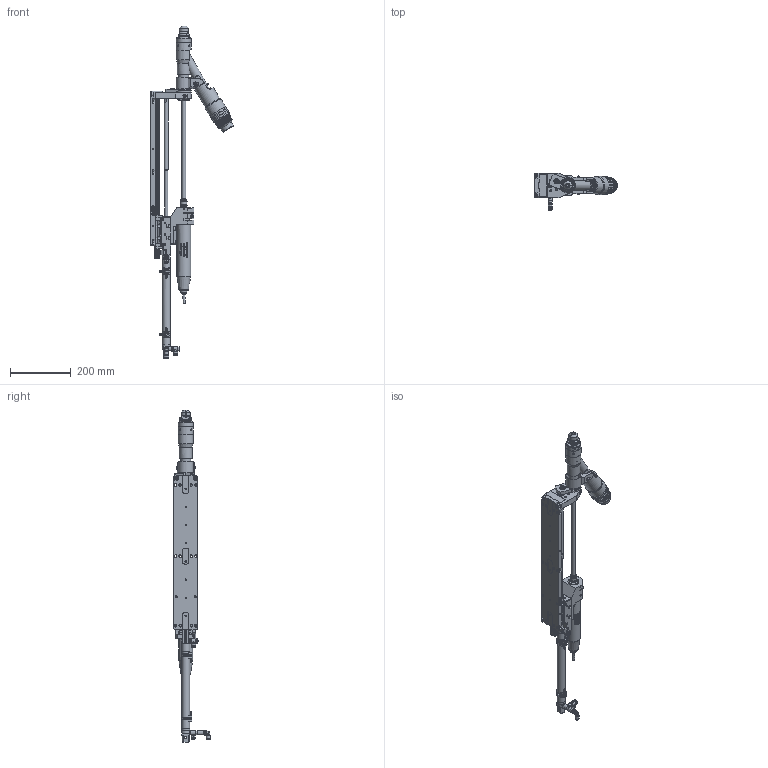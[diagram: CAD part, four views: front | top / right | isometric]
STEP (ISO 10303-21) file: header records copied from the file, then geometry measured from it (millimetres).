
FILE_DESCRIPTION(/* description */ ('© Copyright 2019 – Urheberrechtshinweis Diese CAD-Daten sind urheberrechtlich geschützt. Das Urheberrecht liegt, soweit nicht ausdrücklich anders gekennzeichnet, bei Stöger Automation GmbH. Bitte fragen Sie uns, falls Sie die CAD-Daten vervielfältigen oder','CAx-IF Rec.Pracs.---Representation and Presentation of Product Manufacturing Information (PMI)---4.0---2014-10-13'),/* implementation_level */ '2;1');
FILE_NAME(/* name */ 'N:\09_Entwicklung\09_01_Entwicklungen\09_01_01_Entwicklungsprojekte\VER0211_SEL100_Überarbeitung\Marketing\Step-Modelle\3D_Step_file_automatic_screwdriver_for_screws_SRL101.stp',/* time_stamp */ '2019-03-12T10:29:00+01:00',/* author */ ('Stöger Automation GmbH'),/* organization */ ('Stöger Automation GmbH'),/* preprocessor_version */ 'ST-DEVELOPER v17',/* originating_system */ 'Autodesk Inventor 2018',/* authorisation */ '');
FILE_SCHEMA (('AP242_MANAGED_MODEL_BASED_3D_ENGINEERING_MIM_LF { 1 0 10303 442 1 1 4 }'));
Products named in the file (1): MKT-SRL10101.ipt
Bounding box: 274.16 x 121.4 x 1096.8 mm (x, y, z)
Volume: 2209193.7 mm3; surface area: 801338.5 mm2
Topology: 111 solids, 112 shells, 4494 faces, 12303 edges, 8246 vertices
Faces by surface type: plane 2242, cylinder 1173, bspline 594, cone 375, torus 100, sphere 10
Full cylindrical faces by diameter (mm): 1 x2, 2.5 x2, 3 x6, 3.1 x5, 3.242 x4, 3.8 x4, 4 x10, 4.1 x2, 4.134 x15, 4.2 x3, 4.4 x2, 4.9 x2, 4.917 x16, 5 x11, 6 x32, 6.2 x10, 6.4 x4, 6.5 x3, 6.6 x1, 6.647 x18, 8 x14, 8.2 x8, 8.376 x3, 8.4 x19, 8.5 x8, 8.566 x4, 9.1 x2, 9.2 x8, 9.5 x9, 9.6 x8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
Entity records: 301213 total; most frequent: CARTESIAN_POINT 187751, ORIENTED_EDGE 24484, DIRECTION 20907, EDGE_CURVE 12242, VERTEX_POINT 8246, AXIS2_PLACEMENT_3D 7452, LINE 6003, VECTOR 6003
